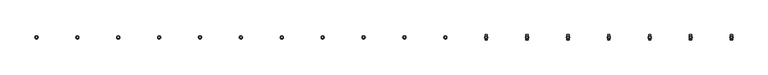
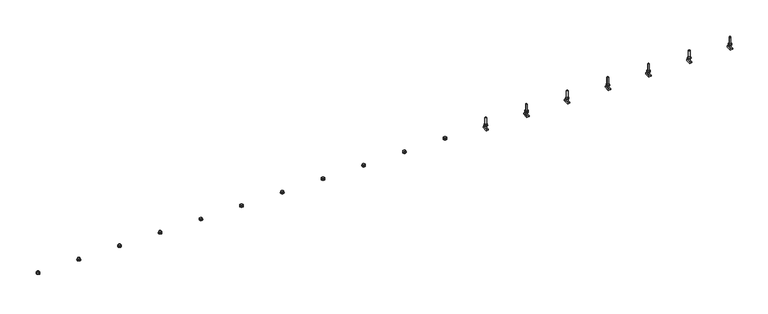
"""IFC4 building model written with IfcOpenShell, lengths in millimetres: fastener geometry, JTA-K JORDAHL® AnchorChannels : JTA-K L=6000 mm."""

from ifc_helpers import new_model, si_unit, point, frame, frame_2d, origin, place, context, project, spatial, polyline, circle_curve, trimmed, segment, composite_curve, outline, extrude, source, transform, mapped, element, save
from ifc_brep_helpers import plane_surface, cylinder_surface, advanced_brep


def fastener_5419c579(model_context):
    return source(origin(), model_context, "Body", "SolidModel", [
        extrude(outline(polyline([(5617.1052632, -10.3923048), (5608.1052632, -5.1961524), (5608.1052632, 5.1961524), (5617.1052632, 10.3923048), (5626.1052632, 5.1961524), (5626.1052632, -5.1961524), (5617.1052632, -10.3923048)]), holes=[composite_curve([segment(trimmed(circle_curve(frame_2d((5617.1052632, 0.0)), 6.0), [point((5611.1052632, 0.0))], [point((5623.1052632, 0.0))], True, "CARTESIAN"), True, "CONTINUOUS"), segment(trimmed(circle_curve(frame_2d((5617.1052632, 0.0)), 6.0), [point((5623.1052632, 0.0))], [point((5611.1052632, 0.0))], True, "CARTESIAN"), True, "CONTINUOUS")], self_intersect=False)]), frame((0.0, 0.0, 17.5), z_axis=(0.0, 0.0, 1.0), x_axis=(1.0, 0.0, 0.0)), (0.0, 0.0, 1.0), 10.8),
        extrude(outline(composite_curve([segment(trimmed(circle_curve(frame_2d((5617.1052632, 0.0)), 12.0), [point((5605.1052632, 0.0))], [point((5629.1052632, 0.0))], False, "CARTESIAN"), True, "CONTINUOUS"), segment(trimmed(circle_curve(frame_2d((5617.1052632, 0.0)), 12.0), [point((5629.1052632, 0.0))], [point((5605.1052632, 0.0))], False, "CARTESIAN"), True, "CONTINUOUS")], self_intersect=False), holes=[composite_curve([segment(trimmed(circle_curve(frame_2d((5617.1052632, 0.0)), 6.5), [point((5610.6052632, 0.0))], [point((5623.6052632, 0.0))], True, "CARTESIAN"), True, "CONTINUOUS"), segment(trimmed(circle_curve(frame_2d((5617.1052632, 0.0)), 6.5), [point((5623.6052632, 0.0))], [point((5610.6052632, 0.0))], True, "CARTESIAN"), True, "CONTINUOUS")], self_intersect=False)]), frame((0.0, 0.0, 15.0), z_axis=(0.0, 0.0, 1.0), x_axis=(1.0, 0.0, 0.0)), (0.0, 0.0, 1.0), 2.5),
        extrude(outline(polyline([(5309.2105263, -10.3923048), (5300.2105263, -5.1961524), (5300.2105263, 5.1961524), (5309.2105263, 10.3923048), (5318.2105263, 5.1961524), (5318.2105263, -5.1961524), (5309.2105263, -10.3923048)]), holes=[composite_curve([segment(trimmed(circle_curve(frame_2d((5309.2105263, 0.0)), 6.0), [point((5303.2105263, 0.0))], [point((5315.2105263, 0.0))], True, "CARTESIAN"), True, "CONTINUOUS"), segment(trimmed(circle_curve(frame_2d((5309.2105263, 0.0)), 6.0), [point((5315.2105263, 0.0))], [point((5303.2105263, 0.0))], True, "CARTESIAN"), True, "CONTINUOUS")], self_intersect=False)]), frame((0.0, 0.0, 17.5), z_axis=(0.0, 0.0, 1.0), x_axis=(1.0, 0.0, 0.0)), (0.0, 0.0, 1.0), 10.8),
        extrude(outline(composite_curve([segment(trimmed(circle_curve(frame_2d((5309.2105263, 0.0)), 12.0), [point((5297.2105263, 0.0))], [point((5321.2105263, 0.0))], False, "CARTESIAN"), True, "CONTINUOUS"), segment(trimmed(circle_curve(frame_2d((5309.2105263, 0.0)), 12.0), [point((5321.2105263, 0.0))], [point((5297.2105263, 0.0))], False, "CARTESIAN"), True, "CONTINUOUS")], self_intersect=False), holes=[composite_curve([segment(trimmed(circle_curve(frame_2d((5309.2105263, 0.0)), 6.5), [point((5302.7105263, 0.0))], [point((5315.7105263, 0.0))], True, "CARTESIAN"), True, "CONTINUOUS"), segment(trimmed(circle_curve(frame_2d((5309.2105263, 0.0)), 6.5), [point((5315.7105263, 0.0))], [point((5302.7105263, 0.0))], True, "CARTESIAN"), True, "CONTINUOUS")], self_intersect=False)]), frame((0.0, 0.0, 15.0), z_axis=(0.0, 0.0, 1.0), x_axis=(1.0, 0.0, 0.0)), (0.0, 0.0, 1.0), 2.5),
        extrude(outline(polyline([(5001.3157895, -10.3923048), (4992.3157895, -5.1961524), (4992.3157895, 5.1961524), (5001.3157895, 10.3923048), (5010.3157895, 5.1961524), (5010.3157895, -5.1961524), (5001.3157895, -10.3923048)]), holes=[composite_curve([segment(trimmed(circle_curve(frame_2d((5001.3157895, 0.0)), 6.0), [point((4995.3157895, 0.0))], [point((5007.3157895, 0.0))], True, "CARTESIAN"), True, "CONTINUOUS"), segment(trimmed(circle_curve(frame_2d((5001.3157895, 0.0)), 6.0), [point((5007.3157895, 0.0))], [point((4995.3157895, 0.0))], True, "CARTESIAN"), True, "CONTINUOUS")], self_intersect=False)]), frame((0.0, 0.0, 17.5), z_axis=(0.0, 0.0, 1.0), x_axis=(1.0, 0.0, 0.0)), (0.0, 0.0, 1.0), 10.8),
        extrude(outline(composite_curve([segment(trimmed(circle_curve(frame_2d((5001.3157895, 0.0)), 12.0), [point((4989.3157895, 0.0))], [point((5013.3157895, 0.0))], False, "CARTESIAN"), True, "CONTINUOUS"), segment(trimmed(circle_curve(frame_2d((5001.3157895, 0.0)), 12.0), [point((5013.3157895, 0.0))], [point((4989.3157895, 0.0))], False, "CARTESIAN"), True, "CONTINUOUS")], self_intersect=False), holes=[composite_curve([segment(trimmed(circle_curve(frame_2d((5001.3157895, 0.0)), 6.5), [point((4994.8157895, 0.0))], [point((5007.8157895, 0.0))], True, "CARTESIAN"), True, "CONTINUOUS"), segment(trimmed(circle_curve(frame_2d((5001.3157895, 0.0)), 6.5), [point((5007.8157895, 0.0))], [point((4994.8157895, 0.0))], True, "CARTESIAN"), True, "CONTINUOUS")], self_intersect=False)]), frame((0.0, 0.0, 15.0), z_axis=(0.0, 0.0, 1.0), x_axis=(1.0, 0.0, 0.0)), (0.0, 0.0, 1.0), 2.5),
        extrude(outline(polyline([(4693.4210526, -10.3923048), (4684.4210526, -5.1961524), (4684.4210526, 5.1961524), (4693.4210526, 10.3923048), (4702.4210526, 5.1961524), (4702.4210526, -5.1961524), (4693.4210526, -10.3923048)]), holes=[composite_curve([segment(trimmed(circle_curve(frame_2d((4693.4210526, 0.0)), 6.0), [point((4687.4210526, 0.0))], [point((4699.4210526, 0.0))], True, "CARTESIAN"), True, "CONTINUOUS"), segment(trimmed(circle_curve(frame_2d((4693.4210526, 0.0)), 6.0), [point((4699.4210526, 0.0))], [point((4687.4210526, 0.0))], True, "CARTESIAN"), True, "CONTINUOUS")], self_intersect=False)]), frame((0.0, 0.0, 17.5), z_axis=(0.0, 0.0, 1.0), x_axis=(1.0, 0.0, 0.0)), (0.0, 0.0, 1.0), 10.8),
        extrude(outline(composite_curve([segment(trimmed(circle_curve(frame_2d((4693.4210526, 0.0)), 12.0), [point((4681.4210526, 0.0))], [point((4705.4210526, 0.0))], False, "CARTESIAN"), True, "CONTINUOUS"), segment(trimmed(circle_curve(frame_2d((4693.4210526, 0.0)), 12.0), [point((4705.4210526, 0.0))], [point((4681.4210526, 0.0))], False, "CARTESIAN"), True, "CONTINUOUS")], self_intersect=False), holes=[composite_curve([segment(trimmed(circle_curve(frame_2d((4693.4210526, 0.0)), 6.5), [point((4686.9210526, 0.0))], [point((4699.9210526, 0.0))], True, "CARTESIAN"), True, "CONTINUOUS"), segment(trimmed(circle_curve(frame_2d((4693.4210526, 0.0)), 6.5), [point((4699.9210526, 0.0))], [point((4686.9210526, 0.0))], True, "CARTESIAN"), True, "CONTINUOUS")], self_intersect=False)]), frame((0.0, 0.0, 15.0), z_axis=(0.0, 0.0, 1.0), x_axis=(1.0, 0.0, 0.0)), (0.0, 0.0, 1.0), 2.5),
        extrude(outline(polyline([(4385.5263158, -10.3923048), (4376.5263158, -5.1961524), (4376.5263158, 5.1961524), (4385.5263158, 10.3923048), (4394.5263158, 5.1961524), (4394.5263158, -5.1961524), (4385.5263158, -10.3923048)]), holes=[composite_curve([segment(trimmed(circle_curve(frame_2d((4385.5263158, 0.0)), 6.0), [point((4379.5263158, 0.0))], [point((4391.5263158, 0.0))], True, "CARTESIAN"), True, "CONTINUOUS"), segment(trimmed(circle_curve(frame_2d((4385.5263158, 0.0)), 6.0), [point((4391.5263158, 0.0))], [point((4379.5263158, 0.0))], True, "CARTESIAN"), True, "CONTINUOUS")], self_intersect=False)]), frame((0.0, 0.0, 17.5), z_axis=(0.0, 0.0, 1.0), x_axis=(1.0, 0.0, 0.0)), (0.0, 0.0, 1.0), 10.8),
        extrude(outline(composite_curve([segment(trimmed(circle_curve(frame_2d((4385.5263158, 0.0)), 12.0), [point((4373.5263158, 0.0))], [point((4397.5263158, 0.0))], False, "CARTESIAN"), True, "CONTINUOUS"), segment(trimmed(circle_curve(frame_2d((4385.5263158, 0.0)), 12.0), [point((4397.5263158, 0.0))], [point((4373.5263158, 0.0))], False, "CARTESIAN"), True, "CONTINUOUS")], self_intersect=False), holes=[composite_curve([segment(trimmed(circle_curve(frame_2d((4385.5263158, 0.0)), 6.5), [point((4379.0263158, 0.0))], [point((4392.0263158, 0.0))], True, "CARTESIAN"), True, "CONTINUOUS"), segment(trimmed(circle_curve(frame_2d((4385.5263158, 0.0)), 6.5), [point((4392.0263158, 0.0))], [point((4379.0263158, 0.0))], True, "CARTESIAN"), True, "CONTINUOUS")], self_intersect=False)]), frame((0.0, 0.0, 15.0), z_axis=(0.0, 0.0, 1.0), x_axis=(1.0, 0.0, 0.0)), (0.0, 0.0, 1.0), 2.5),
        extrude(outline(polyline([(4077.6315789, -10.3923048), (4068.6315789, -5.1961524), (4068.6315789, 5.1961524), (4077.6315789, 10.3923048), (4086.6315789, 5.1961524), (4086.6315789, -5.1961524), (4077.6315789, -10.3923048)]), holes=[composite_curve([segment(trimmed(circle_curve(frame_2d((4077.6315789, 0.0)), 6.0), [point((4071.6315789, 0.0))], [point((4083.6315789, 0.0))], True, "CARTESIAN"), True, "CONTINUOUS"), segment(trimmed(circle_curve(frame_2d((4077.6315789, 0.0)), 6.0), [point((4083.6315789, 0.0))], [point((4071.6315789, 0.0))], True, "CARTESIAN"), True, "CONTINUOUS")], self_intersect=False)]), frame((0.0, 0.0, 17.5), z_axis=(0.0, 0.0, 1.0), x_axis=(1.0, 0.0, 0.0)), (0.0, 0.0, 1.0), 10.8),
        extrude(outline(composite_curve([segment(trimmed(circle_curve(frame_2d((4077.6315789, 0.0)), 12.0), [point((4065.6315789, 0.0))], [point((4089.6315789, 0.0))], False, "CARTESIAN"), True, "CONTINUOUS"), segment(trimmed(circle_curve(frame_2d((4077.6315789, 0.0)), 12.0), [point((4089.6315789, 0.0))], [point((4065.6315789, 0.0))], False, "CARTESIAN"), True, "CONTINUOUS")], self_intersect=False), holes=[composite_curve([segment(trimmed(circle_curve(frame_2d((4077.6315789, 0.0)), 6.5), [point((4071.1315789, 0.0))], [point((4084.1315789, 0.0))], True, "CARTESIAN"), True, "CONTINUOUS"), segment(trimmed(circle_curve(frame_2d((4077.6315789, 0.0)), 6.5), [point((4084.1315789, 0.0))], [point((4071.1315789, 0.0))], True, "CARTESIAN"), True, "CONTINUOUS")], self_intersect=False)]), frame((0.0, 0.0, 15.0), z_axis=(0.0, 0.0, 1.0), x_axis=(1.0, 0.0, 0.0)), (0.0, 0.0, 1.0), 2.5),
        extrude(outline(polyline([(3769.7368421, -10.3923048), (3760.7368421, -5.1961524), (3760.7368421, 5.1961524), (3769.7368421, 10.3923048), (3778.7368421, 5.1961524), (3778.7368421, -5.1961524), (3769.7368421, -10.3923048)]), holes=[composite_curve([segment(trimmed(circle_curve(frame_2d((3769.7368421, 0.0)), 6.0), [point((3763.7368421, 0.0))], [point((3775.7368421, 0.0))], True, "CARTESIAN"), True, "CONTINUOUS"), segment(trimmed(circle_curve(frame_2d((3769.7368421, 0.0)), 6.0), [point((3775.7368421, 0.0))], [point((3763.7368421, 0.0))], True, "CARTESIAN"), True, "CONTINUOUS")], self_intersect=False)]), frame((0.0, 0.0, 17.5), z_axis=(0.0, 0.0, 1.0), x_axis=(1.0, 0.0, 0.0)), (0.0, 0.0, 1.0), 10.8),
        extrude(outline(composite_curve([segment(trimmed(circle_curve(frame_2d((3769.7368421, 0.0)), 12.0), [point((3757.7368421, 0.0))], [point((3781.7368421, 0.0))], False, "CARTESIAN"), True, "CONTINUOUS"), segment(trimmed(circle_curve(frame_2d((3769.7368421, 0.0)), 12.0), [point((3781.7368421, 0.0))], [point((3757.7368421, 0.0))], False, "CARTESIAN"), True, "CONTINUOUS")], self_intersect=False), holes=[composite_curve([segment(trimmed(circle_curve(frame_2d((3769.7368421, 0.0)), 6.5), [point((3763.2368421, 0.0))], [point((3776.2368421, 0.0))], True, "CARTESIAN"), True, "CONTINUOUS"), segment(trimmed(circle_curve(frame_2d((3769.7368421, 0.0)), 6.5), [point((3776.2368421, 0.0))], [point((3763.2368421, 0.0))], True, "CARTESIAN"), True, "CONTINUOUS")], self_intersect=False)]), frame((0.0, 0.0, 15.0), z_axis=(0.0, 0.0, 1.0), x_axis=(1.0, 0.0, 0.0)), (0.0, 0.0, 1.0), 2.5),
        extrude(outline(polyline([(3461.8421053, -10.3923048), (3452.8421053, -5.1961524), (3452.8421053, 5.1961524), (3461.8421053, 10.3923048), (3470.8421053, 5.1961524), (3470.8421053, -5.1961524), (3461.8421053, -10.3923048)]), holes=[composite_curve([segment(trimmed(circle_curve(frame_2d((3461.8421053, 0.0)), 6.0), [point((3455.8421053, 0.0))], [point((3467.8421053, 0.0))], True, "CARTESIAN"), True, "CONTINUOUS"), segment(trimmed(circle_curve(frame_2d((3461.8421053, 0.0)), 6.0), [point((3467.8421053, 0.0))], [point((3455.8421053, 0.0))], True, "CARTESIAN"), True, "CONTINUOUS")], self_intersect=False)]), frame((0.0, 0.0, 17.5), z_axis=(0.0, 0.0, 1.0), x_axis=(1.0, 0.0, 0.0)), (0.0, 0.0, 1.0), 10.8),
        extrude(outline(composite_curve([segment(trimmed(circle_curve(frame_2d((3461.8421053, 0.0)), 12.0), [point((3449.8421053, 0.0))], [point((3473.8421053, 0.0))], False, "CARTESIAN"), True, "CONTINUOUS"), segment(trimmed(circle_curve(frame_2d((3461.8421053, 0.0)), 12.0), [point((3473.8421053, 0.0))], [point((3449.8421053, 0.0))], False, "CARTESIAN"), True, "CONTINUOUS")], self_intersect=False), holes=[composite_curve([segment(trimmed(circle_curve(frame_2d((3461.8421053, 0.0)), 6.5), [point((3455.3421053, 0.0))], [point((3468.3421053, 0.0))], True, "CARTESIAN"), True, "CONTINUOUS"), segment(trimmed(circle_curve(frame_2d((3461.8421053, 0.0)), 6.5), [point((3468.3421053, 0.0))], [point((3455.3421053, 0.0))], True, "CARTESIAN"), True, "CONTINUOUS")], self_intersect=False)]), frame((0.0, 0.0, 15.0), z_axis=(0.0, 0.0, 1.0), x_axis=(1.0, 0.0, 0.0)), (0.0, 0.0, 1.0), 2.5),
        extrude(outline(polyline([(3153.9473684, -10.3923048), (3144.9473684, -5.1961524), (3144.9473684, 5.1961524), (3153.9473684, 10.3923048), (3162.9473684, 5.1961524), (3162.9473684, -5.1961524), (3153.9473684, -10.3923048)]), holes=[composite_curve([segment(trimmed(circle_curve(frame_2d((3153.9473684, 0.0)), 6.0), [point((3147.9473684, 0.0))], [point((3159.9473684, 0.0))], True, "CARTESIAN"), True, "CONTINUOUS"), segment(trimmed(circle_curve(frame_2d((3153.9473684, 0.0)), 6.0), [point((3159.9473684, 0.0))], [point((3147.9473684, 0.0))], True, "CARTESIAN"), True, "CONTINUOUS")], self_intersect=False)]), frame((0.0, 0.0, 17.5), z_axis=(0.0, 0.0, 1.0), x_axis=(1.0, 0.0, 0.0)), (0.0, 0.0, 1.0), 10.8),
        extrude(outline(composite_curve([segment(trimmed(circle_curve(frame_2d((3153.9473684, 0.0)), 12.0), [point((3141.9473684, 0.0))], [point((3165.9473684, 0.0))], False, "CARTESIAN"), True, "CONTINUOUS"), segment(trimmed(circle_curve(frame_2d((3153.9473684, 0.0)), 12.0), [point((3165.9473684, 0.0))], [point((3141.9473684, 0.0))], False, "CARTESIAN"), True, "CONTINUOUS")], self_intersect=False), holes=[composite_curve([segment(trimmed(circle_curve(frame_2d((3153.9473684, 0.0)), 6.5), [point((3147.4473684, 0.0))], [point((3160.4473684, 0.0))], True, "CARTESIAN"), True, "CONTINUOUS"), segment(trimmed(circle_curve(frame_2d((3153.9473684, 0.0)), 6.5), [point((3160.4473684, 0.0))], [point((3147.4473684, 0.0))], True, "CARTESIAN"), True, "CONTINUOUS")], self_intersect=False)]), frame((0.0, 0.0, 15.0), z_axis=(0.0, 0.0, 1.0), x_axis=(1.0, 0.0, 0.0)), (0.0, 0.0, 1.0), 2.5),
        extrude(outline(polyline([(2846.0526316, -10.3923048), (2837.0526316, -5.1961524), (2837.0526316, 5.1961524), (2846.0526316, 10.3923048), (2855.0526316, 5.1961524), (2855.0526316, -5.1961524), (2846.0526316, -10.3923048)]), holes=[composite_curve([segment(trimmed(circle_curve(frame_2d((2846.0526316, 0.0)), 6.0), [point((2840.0526316, 0.0))], [point((2852.0526316, 0.0))], True, "CARTESIAN"), True, "CONTINUOUS"), segment(trimmed(circle_curve(frame_2d((2846.0526316, 0.0)), 6.0), [point((2852.0526316, 0.0))], [point((2840.0526316, 0.0))], True, "CARTESIAN"), True, "CONTINUOUS")], self_intersect=False)]), frame((0.0, 0.0, 17.5), z_axis=(0.0, 0.0, 1.0), x_axis=(1.0, 0.0, 0.0)), (0.0, 0.0, 1.0), 10.8),
        extrude(outline(composite_curve([segment(trimmed(circle_curve(frame_2d((2846.0526316, 0.0)), 12.0), [point((2834.0526316, 0.0))], [point((2858.0526316, 0.0))], False, "CARTESIAN"), True, "CONTINUOUS"), segment(trimmed(circle_curve(frame_2d((2846.0526316, 0.0)), 12.0), [point((2858.0526316, 0.0))], [point((2834.0526316, 0.0))], False, "CARTESIAN"), True, "CONTINUOUS")], self_intersect=False), holes=[composite_curve([segment(trimmed(circle_curve(frame_2d((2846.0526316, 0.0)), 6.5), [point((2839.5526316, 0.0))], [point((2852.5526316, 0.0))], True, "CARTESIAN"), True, "CONTINUOUS"), segment(trimmed(circle_curve(frame_2d((2846.0526316, 0.0)), 6.5), [point((2852.5526316, 0.0))], [point((2839.5526316, 0.0))], True, "CARTESIAN"), True, "CONTINUOUS")], self_intersect=False)]), frame((0.0, 0.0, 15.0), z_axis=(0.0, 0.0, 1.0), x_axis=(1.0, 0.0, 0.0)), (0.0, 0.0, 1.0), 2.5),
        extrude(outline(polyline([(2538.1578947, -10.3923048), (2529.1578947, -5.1961524), (2529.1578947, 5.1961524), (2538.1578947, 10.3923048), (2547.1578947, 5.1961524), (2547.1578947, -5.1961524), (2538.1578947, -10.3923048)]), holes=[composite_curve([segment(trimmed(circle_curve(frame_2d((2538.1578947, 0.0)), 6.0), [point((2532.1578947, 0.0))], [point((2544.1578947, 0.0))], True, "CARTESIAN"), True, "CONTINUOUS"), segment(trimmed(circle_curve(frame_2d((2538.1578947, 0.0)), 6.0), [point((2544.1578947, 0.0))], [point((2532.1578947, 0.0))], True, "CARTESIAN"), True, "CONTINUOUS")], self_intersect=False)]), frame((0.0, 0.0, 17.5), z_axis=(0.0, 0.0, 1.0), x_axis=(1.0, 0.0, 0.0)), (0.0, 0.0, 1.0), 10.8),
        extrude(outline(composite_curve([segment(trimmed(circle_curve(frame_2d((2538.1578947, 0.0)), 12.0), [point((2526.1578947, 0.0))], [point((2550.1578947, 0.0))], False, "CARTESIAN"), True, "CONTINUOUS"), segment(trimmed(circle_curve(frame_2d((2538.1578947, 0.0)), 12.0), [point((2550.1578947, 0.0))], [point((2526.1578947, 0.0))], False, "CARTESIAN"), True, "CONTINUOUS")], self_intersect=False), holes=[composite_curve([segment(trimmed(circle_curve(frame_2d((2538.1578947, 0.0)), 6.5), [point((2531.6578947, 0.0))], [point((2544.6578947, 0.0))], True, "CARTESIAN"), True, "CONTINUOUS"), segment(trimmed(circle_curve(frame_2d((2538.1578947, 0.0)), 6.5), [point((2544.6578947, 0.0))], [point((2531.6578947, 0.0))], True, "CARTESIAN"), True, "CONTINUOUS")], self_intersect=False)]), frame((0.0, 0.0, 15.0), z_axis=(0.0, 0.0, 1.0), x_axis=(1.0, 0.0, 0.0)), (0.0, 0.0, 1.0), 2.5),
        extrude(outline(polyline([(2230.2631579, -10.3923048), (2221.2631579, -5.1961524), (2221.2631579, 5.1961524), (2230.2631579, 10.3923048), (2239.2631579, 5.1961524), (2239.2631579, -5.1961524), (2230.2631579, -10.3923048)]), holes=[composite_curve([segment(trimmed(circle_curve(frame_2d((2230.2631579, 0.0)), 6.0), [point((2224.2631579, 0.0))], [point((2236.2631579, 0.0))], True, "CARTESIAN"), True, "CONTINUOUS"), segment(trimmed(circle_curve(frame_2d((2230.2631579, 0.0)), 6.0), [point((2236.2631579, 0.0))], [point((2224.2631579, 0.0))], True, "CARTESIAN"), True, "CONTINUOUS")], self_intersect=False)]), frame((0.0, 0.0, 17.5), z_axis=(0.0, 0.0, 1.0), x_axis=(1.0, 0.0, 0.0)), (0.0, 0.0, 1.0), 10.8),
        extrude(outline(composite_curve([segment(trimmed(circle_curve(frame_2d((2230.2631579, 0.0)), 12.0), [point((2218.2631579, 0.0))], [point((2242.2631579, 0.0))], False, "CARTESIAN"), True, "CONTINUOUS"), segment(trimmed(circle_curve(frame_2d((2230.2631579, 0.0)), 12.0), [point((2242.2631579, 0.0))], [point((2218.2631579, 0.0))], False, "CARTESIAN"), True, "CONTINUOUS")], self_intersect=False), holes=[composite_curve([segment(trimmed(circle_curve(frame_2d((2230.2631579, 0.0)), 6.5), [point((2223.7631579, 0.0))], [point((2236.7631579, 0.0))], True, "CARTESIAN"), True, "CONTINUOUS"), segment(trimmed(circle_curve(frame_2d((2230.2631579, 0.0)), 6.5), [point((2236.7631579, 0.0))], [point((2223.7631579, 0.0))], True, "CARTESIAN"), True, "CONTINUOUS")], self_intersect=False)]), frame((0.0, 0.0, 15.0), z_axis=(0.0, 0.0, 1.0), x_axis=(1.0, 0.0, 0.0)), (0.0, 0.0, 1.0), 2.5),
        extrude(outline(polyline([(1922.3684211, -10.3923048), (1913.3684211, -5.1961524), (1913.3684211, 5.1961524), (1922.3684211, 10.3923048), (1931.3684211, 5.1961524), (1931.3684211, -5.1961524), (1922.3684211, -10.3923048)]), holes=[composite_curve([segment(trimmed(circle_curve(frame_2d((1922.3684211, 0.0)), 6.0), [point((1916.3684211, 0.0))], [point((1928.3684211, 0.0))], True, "CARTESIAN"), True, "CONTINUOUS"), segment(trimmed(circle_curve(frame_2d((1922.3684211, 0.0)), 6.0), [point((1928.3684211, 0.0))], [point((1916.3684211, 0.0))], True, "CARTESIAN"), True, "CONTINUOUS")], self_intersect=False)]), frame((0.0, 0.0, 17.5), z_axis=(0.0, 0.0, 1.0), x_axis=(1.0, 0.0, 0.0)), (0.0, 0.0, 1.0), 10.8),
        extrude(outline(composite_curve([segment(trimmed(circle_curve(frame_2d((1922.3684211, 0.0)), 12.0), [point((1910.3684211, 0.0))], [point((1934.3684211, 0.0))], False, "CARTESIAN"), True, "CONTINUOUS"), segment(trimmed(circle_curve(frame_2d((1922.3684211, 0.0)), 12.0), [point((1934.3684211, 0.0))], [point((1910.3684211, 0.0))], False, "CARTESIAN"), True, "CONTINUOUS")], self_intersect=False), holes=[composite_curve([segment(trimmed(circle_curve(frame_2d((1922.3684211, 0.0)), 6.5), [point((1915.8684211, 0.0))], [point((1928.8684211, 0.0))], True, "CARTESIAN"), True, "CONTINUOUS"), segment(trimmed(circle_curve(frame_2d((1922.3684211, 0.0)), 6.5), [point((1928.8684211, 0.0))], [point((1915.8684211, 0.0))], True, "CARTESIAN"), True, "CONTINUOUS")], self_intersect=False)]), frame((0.0, 0.0, 15.0), z_axis=(0.0, 0.0, 1.0), x_axis=(1.0, 0.0, 0.0)), (0.0, 0.0, 1.0), 2.5),
        extrude(outline(polyline([(1614.4736842, -10.3923048), (1605.4736842, -5.1961524), (1605.4736842, 5.1961524), (1614.4736842, 10.3923048), (1623.4736842, 5.1961524), (1623.4736842, -5.1961524), (1614.4736842, -10.3923048)]), holes=[composite_curve([segment(trimmed(circle_curve(frame_2d((1614.4736842, 0.0)), 6.0), [point((1608.4736842, 0.0))], [point((1620.4736842, 0.0))], True, "CARTESIAN"), True, "CONTINUOUS"), segment(trimmed(circle_curve(frame_2d((1614.4736842, 0.0)), 6.0), [point((1620.4736842, 0.0))], [point((1608.4736842, 0.0))], True, "CARTESIAN"), True, "CONTINUOUS")], self_intersect=False)]), frame((0.0, 0.0, 17.5), z_axis=(0.0, 0.0, 1.0), x_axis=(1.0, 0.0, 0.0)), (0.0, 0.0, 1.0), 10.8),
        extrude(outline(composite_curve([segment(trimmed(circle_curve(frame_2d((1614.4736842, 0.0)), 12.0), [point((1602.4736842, 0.0))], [point((1626.4736842, 0.0))], False, "CARTESIAN"), True, "CONTINUOUS"), segment(trimmed(circle_curve(frame_2d((1614.4736842, 0.0)), 12.0), [point((1626.4736842, 0.0))], [point((1602.4736842, 0.0))], False, "CARTESIAN"), True, "CONTINUOUS")], self_intersect=False), holes=[composite_curve([segment(trimmed(circle_curve(frame_2d((1614.4736842, 0.0)), 6.5), [point((1607.9736842, 0.0))], [point((1620.9736842, 0.0))], True, "CARTESIAN"), True, "CONTINUOUS"), segment(trimmed(circle_curve(frame_2d((1614.4736842, 0.0)), 6.5), [point((1620.9736842, 0.0))], [point((1607.9736842, 0.0))], True, "CARTESIAN"), True, "CONTINUOUS")], self_intersect=False)]), frame((0.0, 0.0, 15.0), z_axis=(0.0, 0.0, 1.0), x_axis=(1.0, 0.0, 0.0)), (0.0, 0.0, 1.0), 2.5),
        extrude(outline(polyline([(1306.5789474, -10.3923048), (1297.5789474, -5.1961524), (1297.5789474, 5.1961524), (1306.5789474, 10.3923048), (1315.5789474, 5.1961524), (1315.5789474, -5.1961524), (1306.5789474, -10.3923048)]), holes=[composite_curve([segment(trimmed(circle_curve(frame_2d((1306.5789474, 0.0)), 6.0), [point((1300.5789474, 0.0))], [point((1312.5789474, 0.0))], True, "CARTESIAN"), True, "CONTINUOUS"), segment(trimmed(circle_curve(frame_2d((1306.5789474, 0.0)), 6.0), [point((1312.5789474, 0.0))], [point((1300.5789474, 0.0))], True, "CARTESIAN"), True, "CONTINUOUS")], self_intersect=False)]), frame((0.0, 0.0, 17.5), z_axis=(0.0, 0.0, 1.0), x_axis=(1.0, 0.0, 0.0)), (0.0, 0.0, 1.0), 10.8),
        extrude(outline(composite_curve([segment(trimmed(circle_curve(frame_2d((1306.5789474, 0.0)), 12.0), [point((1294.5789474, 0.0))], [point((1318.5789474, 0.0))], False, "CARTESIAN"), True, "CONTINUOUS"), segment(trimmed(circle_curve(frame_2d((1306.5789474, 0.0)), 12.0), [point((1318.5789474, 0.0))], [point((1294.5789474, 0.0))], False, "CARTESIAN"), True, "CONTINUOUS")], self_intersect=False), holes=[composite_curve([segment(trimmed(circle_curve(frame_2d((1306.5789474, 0.0)), 6.5), [point((1300.0789474, 0.0))], [point((1313.0789474, 0.0))], True, "CARTESIAN"), True, "CONTINUOUS"), segment(trimmed(circle_curve(frame_2d((1306.5789474, 0.0)), 6.5), [point((1313.0789474, 0.0))], [point((1300.0789474, 0.0))], True, "CARTESIAN"), True, "CONTINUOUS")], self_intersect=False)]), frame((0.0, 0.0, 15.0), z_axis=(0.0, 0.0, 1.0), x_axis=(1.0, 0.0, 0.0)), (0.0, 0.0, 1.0), 2.5),
        extrude(outline(polyline([(998.6842105, -10.3923048), (989.6842105, -5.1961524), (989.6842105, 5.1961524), (998.6842105, 10.3923048), (1007.6842105, 5.1961524), (1007.6842105, -5.1961524), (998.6842105, -10.3923048)]), holes=[composite_curve([segment(trimmed(circle_curve(frame_2d((998.6842105, 0.0)), 6.0), [point((992.6842105, 0.0))], [point((1004.6842105, 0.0))], True, "CARTESIAN"), True, "CONTINUOUS"), segment(trimmed(circle_curve(frame_2d((998.6842105, 0.0)), 6.0), [point((1004.6842105, 0.0))], [point((992.6842105, 0.0))], True, "CARTESIAN"), True, "CONTINUOUS")], self_intersect=False)]), frame((0.0, 0.0, 17.5), z_axis=(0.0, 0.0, 1.0), x_axis=(1.0, 0.0, 0.0)), (0.0, 0.0, 1.0), 10.8),
        extrude(outline(composite_curve([segment(trimmed(circle_curve(frame_2d((998.6842105, 0.0)), 12.0), [point((986.6842105, 0.0))], [point((1010.6842105, 0.0))], False, "CARTESIAN"), True, "CONTINUOUS"), segment(trimmed(circle_curve(frame_2d((998.6842105, 0.0)), 12.0), [point((1010.6842105, 0.0))], [point((986.6842105, 0.0))], False, "CARTESIAN"), True, "CONTINUOUS")], self_intersect=False), holes=[composite_curve([segment(trimmed(circle_curve(frame_2d((998.6842105, 0.0)), 6.5), [point((992.1842105, 0.0))], [point((1005.1842105, 0.0))], True, "CARTESIAN"), True, "CONTINUOUS"), segment(trimmed(circle_curve(frame_2d((998.6842105, 0.0)), 6.5), [point((1005.1842105, 0.0))], [point((992.1842105, 0.0))], True, "CARTESIAN"), True, "CONTINUOUS")], self_intersect=False)]), frame((0.0, 0.0, 15.0), z_axis=(0.0, 0.0, 1.0), x_axis=(1.0, 0.0, 0.0)), (0.0, 0.0, 1.0), 2.5),
        extrude(outline(polyline([(690.7894737, -10.3923048), (681.7894737, -5.1961524), (681.7894737, 5.1961524), (690.7894737, 10.3923048), (699.7894737, 5.1961524), (699.7894737, -5.1961524), (690.7894737, -10.3923048)]), holes=[composite_curve([segment(trimmed(circle_curve(frame_2d((690.7894737, 0.0)), 6.0), [point((684.7894737, 0.0))], [point((696.7894737, 0.0))], True, "CARTESIAN"), True, "CONTINUOUS"), segment(trimmed(circle_curve(frame_2d((690.7894737, 0.0)), 6.0), [point((696.7894737, 0.0))], [point((684.7894737, 0.0))], True, "CARTESIAN"), True, "CONTINUOUS")], self_intersect=False)]), frame((0.0, 0.0, 17.5), z_axis=(0.0, 0.0, 1.0), x_axis=(1.0, 0.0, 0.0)), (0.0, 0.0, 1.0), 10.8),
        extrude(outline(composite_curve([segment(trimmed(circle_curve(frame_2d((690.7894737, 0.0)), 12.0), [point((678.7894737, 0.0))], [point((702.7894737, 0.0))], False, "CARTESIAN"), True, "CONTINUOUS"), segment(trimmed(circle_curve(frame_2d((690.7894737, 0.0)), 12.0), [point((702.7894737, 0.0))], [point((678.7894737, 0.0))], False, "CARTESIAN"), True, "CONTINUOUS")], self_intersect=False), holes=[composite_curve([segment(trimmed(circle_curve(frame_2d((690.7894737, 0.0)), 6.5), [point((684.2894737, 0.0))], [point((697.2894737, 0.0))], True, "CARTESIAN"), True, "CONTINUOUS"), segment(trimmed(circle_curve(frame_2d((690.7894737, 0.0)), 6.5), [point((697.2894737, 0.0))], [point((684.2894737, 0.0))], True, "CARTESIAN"), True, "CONTINUOUS")], self_intersect=False)]), frame((0.0, 0.0, 15.0), z_axis=(0.0, 0.0, 1.0), x_axis=(1.0, 0.0, 0.0)), (0.0, 0.0, 1.0), 2.5),
        extrude(outline(polyline([(382.8947368, -10.3923048), (373.8947368, -5.1961524), (373.8947368, 5.1961524), (382.8947368, 10.3923048), (391.8947368, 5.1961524), (391.8947368, -5.1961524), (382.8947368, -10.3923048)]), holes=[composite_curve([segment(trimmed(circle_curve(frame_2d((382.8947368, 0.0)), 6.0), [point((376.8947368, 0.0))], [point((388.8947368, 0.0))], True, "CARTESIAN"), True, "CONTINUOUS"), segment(trimmed(circle_curve(frame_2d((382.8947368, 0.0)), 6.0), [point((388.8947368, 0.0))], [point((376.8947368, 0.0))], True, "CARTESIAN"), True, "CONTINUOUS")], self_intersect=False)]), frame((0.0, 0.0, 17.5), z_axis=(0.0, 0.0, 1.0), x_axis=(1.0, 0.0, 0.0)), (0.0, 0.0, 1.0), 10.8),
        extrude(outline(composite_curve([segment(trimmed(circle_curve(frame_2d((382.8947368, 0.0)), 12.0), [point((370.8947368, 0.0))], [point((394.8947368, 0.0))], False, "CARTESIAN"), True, "CONTINUOUS"), segment(trimmed(circle_curve(frame_2d((382.8947368, 0.0)), 12.0), [point((394.8947368, 0.0))], [point((370.8947368, 0.0))], False, "CARTESIAN"), True, "CONTINUOUS")], self_intersect=False), holes=[composite_curve([segment(trimmed(circle_curve(frame_2d((382.8947368, 0.0)), 6.5), [point((376.3947368, 0.0))], [point((389.3947368, 0.0))], True, "CARTESIAN"), True, "CONTINUOUS"), segment(trimmed(circle_curve(frame_2d((382.8947368, 0.0)), 6.5), [point((389.3947368, 0.0))], [point((376.3947368, 0.0))], True, "CARTESIAN"), True, "CONTINUOUS")], self_intersect=False)]), frame((0.0, 0.0, 15.0), z_axis=(0.0, 0.0, 1.0), x_axis=(1.0, 0.0, 0.0)), (0.0, 0.0, 1.0), 2.5),
        advanced_brep(
        [(5625.6052632, -20.7, -3.0), (5625.6052632, -20.7, -13.0), (5625.6052632, 20.7, -13.0), (5625.6052632, 20.7, -3.0), (5608.6052632, -20.7, -3.0), (5608.6052632, 20.7, -3.0), (5608.6052632, 20.7, -13.0), (5608.6052632, -20.7, -13.0), (5623.1052632, 0.0, -3.0), (5611.1052632, 0.0, -3.0), (5611.1052632, 0.0, 77.0), (5623.1052632, 0.0, 77.0)],
        [
            (0, 1),
            (1, 2),
            (2, 3),
            (3, 0),
            (4, 5),
            (5, 6),
            (6, 7),
            (7, 4),
            (3, 5),
            (4, 0),
            (8, 9, circle_curve(frame((5617.1052632, 0.0, -3.0), z_axis=(0.0, 0.0, -1.0), x_axis=(1.0, 0.0, 0.0)), 6.0)),
            (9, 8, circle_curve(frame((5617.1052632, 0.0, -3.0), z_axis=(0.0, 0.0, -1.0), x_axis=(1.0, 0.0, 0.0)), 6.0)),
            (2, 6),
            (1, 7),
            (10, 11, circle_curve(frame((5617.1052632, 0.0, 77.0), z_axis=(0.0, 0.0, 1.0), x_axis=(1.0, 0.0, 0.0)), 6.0)),
            (11, 10, circle_curve(frame((5617.1052632, 0.0, 77.0), z_axis=(0.0, 0.0, 1.0), x_axis=(1.0, 0.0, 0.0)), 6.0)),
            (11, 8),
            (9, 10),
        ],
        [
            plane_surface(frame((5625.6052632, 20.7, -3.0), z_axis=(1.0, 0.0, 0.0), x_axis=(0.0, 1.0, 0.0))),
            plane_surface(frame((5608.6052632, 20.7, -3.0), z_axis=(-1.0, 0.0, 0.0), x_axis=(0.0, -1.0, 0.0))),
            plane_surface(frame((5625.6052632, -20.7, -3.0), z_axis=(0.0, 0.0, 1.0), x_axis=(-1.0, 0.0, 0.0))),
            plane_surface(frame((5625.6052632, 20.7, -3.0), z_axis=(0.0, 1.0, 0.0), x_axis=(-1.0, 0.0, 0.0))),
            plane_surface(frame((5625.6052632, 20.7, -13.0), z_axis=(0.0, 0.0, -1.0), x_axis=(-1.0, 0.0, 0.0))),
            plane_surface(frame((5625.6052632, -20.7, -13.0), z_axis=(0.0, -1.0, 0.0), x_axis=(-1.0, 0.0, 0.0))),
            plane_surface(frame((5623.1052632, 0.0, 77.0), z_axis=(0.0, 0.0, 1.0), x_axis=(0.0, -1.0, 0.0))),
            cylinder_surface(frame((5617.1052632, 0.0, -3.0), z_axis=(0.0, 0.0, 1.0), x_axis=(1.0, 0.0, 0.0)), 6.0),
        ],
        [
            (0, [[1, 2, 3, 4]]),
            (1, [[5, 6, 7, 8]]),
            (2, [[9, -5, 10, -4], [11, 12]]),
            (3, [[13, -6, -9, -3]]),
            (4, [[14, -7, -13, -2]]),
            (5, [[-10, -8, -14, -1]]),
            (6, [[15, 16]]),
            (7, [[17, -12, 18, -16]]),
            (7, [[-18, -11, -17, -15]]),
        ],
    ),
        advanced_brep(
        [(5317.7105263, -20.7, -3.0), (5317.7105263, -20.7, -13.0), (5317.7105263, 20.7, -13.0), (5317.7105263, 20.7, -3.0), (5300.7105263, -20.7, -3.0), (5300.7105263, 20.7, -3.0), (5300.7105263, 20.7, -13.0), (5300.7105263, -20.7, -13.0), (5315.2105263, 0.0, -3.0), (5303.2105263, 0.0, -3.0), (5303.2105263, 0.0, 77.0), (5315.2105263, 0.0, 77.0)],
        [
            (0, 1),
            (1, 2),
            (2, 3),
            (3, 0),
            (4, 5),
            (5, 6),
            (6, 7),
            (7, 4),
            (3, 5),
            (4, 0),
            (8, 9, circle_curve(frame((5309.2105263, 0.0, -3.0), z_axis=(0.0, 0.0, -1.0), x_axis=(1.0, 0.0, 0.0)), 6.0)),
            (9, 8, circle_curve(frame((5309.2105263, 0.0, -3.0), z_axis=(0.0, 0.0, -1.0), x_axis=(1.0, 0.0, 0.0)), 6.0)),
            (2, 6),
            (1, 7),
            (10, 11, circle_curve(frame((5309.2105263, 0.0, 77.0), z_axis=(0.0, 0.0, 1.0), x_axis=(1.0, 0.0, 0.0)), 6.0)),
            (11, 10, circle_curve(frame((5309.2105263, 0.0, 77.0), z_axis=(0.0, 0.0, 1.0), x_axis=(1.0, 0.0, 0.0)), 6.0)),
            (11, 8),
            (9, 10),
        ],
        [
            plane_surface(frame((5317.7105263, 20.7, -3.0), z_axis=(1.0, 0.0, 0.0), x_axis=(0.0, 1.0, 0.0))),
            plane_surface(frame((5300.7105263, 20.7, -3.0), z_axis=(-1.0, 0.0, 0.0), x_axis=(0.0, -1.0, 0.0))),
            plane_surface(frame((5317.7105263, -20.7, -3.0), z_axis=(0.0, 0.0, 1.0), x_axis=(-1.0, 0.0, 0.0))),
            plane_surface(frame((5317.7105263, 20.7, -3.0), z_axis=(0.0, 1.0, 0.0), x_axis=(-1.0, 0.0, 0.0))),
            plane_surface(frame((5317.7105263, 20.7, -13.0), z_axis=(0.0, 0.0, -1.0), x_axis=(-1.0, 0.0, 0.0))),
            plane_surface(frame((5317.7105263, -20.7, -13.0), z_axis=(0.0, -1.0, 0.0), x_axis=(-1.0, 0.0, 0.0))),
            plane_surface(frame((5315.2105263, 0.0, 77.0), z_axis=(0.0, 0.0, 1.0), x_axis=(0.0, -1.0, 0.0))),
            cylinder_surface(frame((5309.2105263, 0.0, -3.0), z_axis=(0.0, 0.0, 1.0), x_axis=(1.0, 0.0, 0.0)), 6.0),
        ],
        [
            (0, [[1, 2, 3, 4]]),
            (1, [[5, 6, 7, 8]]),
            (2, [[9, -5, 10, -4], [11, 12]]),
            (3, [[13, -6, -9, -3]]),
            (4, [[14, -7, -13, -2]]),
            (5, [[-10, -8, -14, -1]]),
            (6, [[15, 16]]),
            (7, [[17, -12, 18, -16]]),
            (7, [[-18, -11, -17, -15]]),
        ],
    ),
        advanced_brep(
        [(5009.8157895, -20.7, -3.0), (5009.8157895, -20.7, -13.0), (5009.8157895, 20.7, -13.0), (5009.8157895, 20.7, -3.0), (4992.8157895, -20.7, -3.0), (4992.8157895, 20.7, -3.0), (4992.8157895, 20.7, -13.0), (4992.8157895, -20.7, -13.0), (5007.3157895, 0.0, -3.0), (4995.3157895, 0.0, -3.0), (4995.3157895, 0.0, 77.0), (5007.3157895, 0.0, 77.0)],
        [
            (0, 1),
            (1, 2),
            (2, 3),
            (3, 0),
            (4, 5),
            (5, 6),
            (6, 7),
            (7, 4),
            (3, 5),
            (4, 0),
            (8, 9, circle_curve(frame((5001.3157895, 0.0, -3.0), z_axis=(0.0, 0.0, -1.0), x_axis=(1.0, 0.0, 0.0)), 6.0)),
            (9, 8, circle_curve(frame((5001.3157895, 0.0, -3.0), z_axis=(0.0, 0.0, -1.0), x_axis=(1.0, 0.0, 0.0)), 6.0)),
            (2, 6),
            (1, 7),
            (10, 11, circle_curve(frame((5001.3157895, 0.0, 77.0), z_axis=(0.0, 0.0, 1.0), x_axis=(1.0, 0.0, 0.0)), 6.0)),
            (11, 10, circle_curve(frame((5001.3157895, 0.0, 77.0), z_axis=(0.0, 0.0, 1.0), x_axis=(1.0, 0.0, 0.0)), 6.0)),
            (11, 8),
            (9, 10),
        ],
        [
            plane_surface(frame((5009.8157895, 20.7, -3.0), z_axis=(1.0, 0.0, 0.0), x_axis=(0.0, 1.0, 0.0))),
            plane_surface(frame((4992.8157895, 20.7, -3.0), z_axis=(-1.0, 0.0, 0.0), x_axis=(0.0, -1.0, 0.0))),
            plane_surface(frame((5009.8157895, -20.7, -3.0), z_axis=(0.0, 0.0, 1.0), x_axis=(-1.0, 0.0, 0.0))),
            plane_surface(frame((5009.8157895, 20.7, -3.0), z_axis=(0.0, 1.0, 0.0), x_axis=(-1.0, 0.0, 0.0))),
            plane_surface(frame((5009.8157895, 20.7, -13.0), z_axis=(0.0, 0.0, -1.0), x_axis=(-1.0, 0.0, 0.0))),
            plane_surface(frame((5009.8157895, -20.7, -13.0), z_axis=(0.0, -1.0, 0.0), x_axis=(-1.0, 0.0, 0.0))),
            plane_surface(frame((5007.3157895, 0.0, 77.0), z_axis=(0.0, 0.0, 1.0), x_axis=(0.0, -1.0, 0.0))),
            cylinder_surface(frame((5001.3157895, 0.0, -3.0), z_axis=(0.0, 0.0, 1.0), x_axis=(1.0, 0.0, 0.0)), 6.0),
        ],
        [
            (0, [[1, 2, 3, 4]]),
            (1, [[5, 6, 7, 8]]),
            (2, [[9, -5, 10, -4], [11, 12]]),
            (3, [[13, -6, -9, -3]]),
            (4, [[14, -7, -13, -2]]),
            (5, [[-10, -8, -14, -1]]),
            (6, [[15, 16]]),
            (7, [[17, -12, 18, -16]]),
            (7, [[-18, -11, -17, -15]]),
        ],
    ),
        advanced_brep(
        [(4701.9210526, -20.7, -3.0), (4701.9210526, -20.7, -13.0), (4701.9210526, 20.7, -13.0), (4701.9210526, 20.7, -3.0), (4684.9210526, -20.7, -3.0), (4684.9210526, 20.7, -3.0), (4684.9210526, 20.7, -13.0), (4684.9210526, -20.7, -13.0), (4699.4210526, 0.0, -3.0), (4687.4210526, 0.0, -3.0), (4687.4210526, 0.0, 77.0), (4699.4210526, 0.0, 77.0)],
        [
            (0, 1),
            (1, 2),
            (2, 3),
            (3, 0),
            (4, 5),
            (5, 6),
            (6, 7),
            (7, 4),
            (3, 5),
            (4, 0),
            (8, 9, circle_curve(frame((4693.4210526, 0.0, -3.0), z_axis=(0.0, 0.0, -1.0), x_axis=(1.0, 0.0, 0.0)), 6.0)),
            (9, 8, circle_curve(frame((4693.4210526, 0.0, -3.0), z_axis=(0.0, 0.0, -1.0), x_axis=(1.0, 0.0, 0.0)), 6.0)),
            (2, 6),
            (1, 7),
            (10, 11, circle_curve(frame((4693.4210526, 0.0, 77.0), z_axis=(0.0, 0.0, 1.0), x_axis=(1.0, 0.0, 0.0)), 6.0)),
            (11, 10, circle_curve(frame((4693.4210526, 0.0, 77.0), z_axis=(0.0, 0.0, 1.0), x_axis=(1.0, 0.0, 0.0)), 6.0)),
            (11, 8),
            (9, 10),
        ],
        [
            plane_surface(frame((4701.9210526, 20.7, -3.0), z_axis=(1.0, 0.0, 0.0), x_axis=(0.0, 1.0, 0.0))),
            plane_surface(frame((4684.9210526, 20.7, -3.0), z_axis=(-1.0, 0.0, 0.0), x_axis=(0.0, -1.0, 0.0))),
            plane_surface(frame((4701.9210526, -20.7, -3.0), z_axis=(0.0, 0.0, 1.0), x_axis=(-1.0, 0.0, 0.0))),
            plane_surface(frame((4701.9210526, 20.7, -3.0), z_axis=(0.0, 1.0, 0.0), x_axis=(-1.0, 0.0, 0.0))),
            plane_surface(frame((4701.9210526, 20.7, -13.0), z_axis=(0.0, 0.0, -1.0), x_axis=(-1.0, 0.0, 0.0))),
            plane_surface(frame((4701.9210526, -20.7, -13.0), z_axis=(0.0, -1.0, 0.0), x_axis=(-1.0, 0.0, 0.0))),
            plane_surface(frame((4699.4210526, 0.0, 77.0), z_axis=(0.0, 0.0, 1.0), x_axis=(0.0, -1.0, 0.0))),
            cylinder_surface(frame((4693.4210526, 0.0, -3.0), z_axis=(0.0, 0.0, 1.0), x_axis=(1.0, 0.0, 0.0)), 6.0),
        ],
        [
            (0, [[1, 2, 3, 4]]),
            (1, [[5, 6, 7, 8]]),
            (2, [[9, -5, 10, -4], [11, 12]]),
            (3, [[13, -6, -9, -3]]),
            (4, [[14, -7, -13, -2]]),
            (5, [[-10, -8, -14, -1]]),
            (6, [[15, 16]]),
            (7, [[17, -12, 18, -16]]),
            (7, [[-18, -11, -17, -15]]),
        ],
    ),
        advanced_brep(
        [(4394.0263158, -20.7, -3.0), (4394.0263158, -20.7, -13.0), (4394.0263158, 20.7, -13.0), (4394.0263158, 20.7, -3.0), (4377.0263158, -20.7, -3.0), (4377.0263158, 20.7, -3.0), (4377.0263158, 20.7, -13.0), (4377.0263158, -20.7, -13.0), (4391.5263158, 0.0, -3.0), (4379.5263158, 0.0, -3.0), (4379.5263158, 0.0, 77.0), (4391.5263158, 0.0, 77.0)],
        [
            (0, 1),
            (1, 2),
            (2, 3),
            (3, 0),
            (4, 5),
            (5, 6),
            (6, 7),
            (7, 4),
            (3, 5),
            (4, 0),
            (8, 9, circle_curve(frame((4385.5263158, 0.0, -3.0), z_axis=(0.0, 0.0, -1.0), x_axis=(1.0, 0.0, 0.0)), 6.0)),
            (9, 8, circle_curve(frame((4385.5263158, 0.0, -3.0), z_axis=(0.0, 0.0, -1.0), x_axis=(1.0, 0.0, 0.0)), 6.0)),
            (2, 6),
            (1, 7),
            (10, 11, circle_curve(frame((4385.5263158, 0.0, 77.0), z_axis=(0.0, 0.0, 1.0), x_axis=(1.0, 0.0, 0.0)), 6.0)),
            (11, 10, circle_curve(frame((4385.5263158, 0.0, 77.0), z_axis=(0.0, 0.0, 1.0), x_axis=(1.0, 0.0, 0.0)), 6.0)),
            (11, 8),
            (9, 10),
        ],
        [
            plane_surface(frame((4394.0263158, 20.7, -3.0), z_axis=(1.0, 0.0, 0.0), x_axis=(0.0, 1.0, 0.0))),
            plane_surface(frame((4377.0263158, 20.7, -3.0), z_axis=(-1.0, 0.0, 0.0), x_axis=(0.0, -1.0, 0.0))),
            plane_surface(frame((4394.0263158, -20.7, -3.0), z_axis=(0.0, 0.0, 1.0), x_axis=(-1.0, 0.0, 0.0))),
            plane_surface(frame((4394.0263158, 20.7, -3.0), z_axis=(0.0, 1.0, 0.0), x_axis=(-1.0, 0.0, 0.0))),
            plane_surface(frame((4394.0263158, 20.7, -13.0), z_axis=(0.0, 0.0, -1.0), x_axis=(-1.0, 0.0, 0.0))),
            plane_surface(frame((4394.0263158, -20.7, -13.0), z_axis=(0.0, -1.0, 0.0), x_axis=(-1.0, 0.0, 0.0))),
            plane_surface(frame((4391.5263158, 0.0, 77.0), z_axis=(0.0, 0.0, 1.0), x_axis=(0.0, -1.0, 0.0))),
            cylinder_surface(frame((4385.5263158, 0.0, -3.0), z_axis=(0.0, 0.0, 1.0), x_axis=(1.0, 0.0, 0.0)), 6.0),
        ],
        [
            (0, [[1, 2, 3, 4]]),
            (1, [[5, 6, 7, 8]]),
            (2, [[9, -5, 10, -4], [11, 12]]),
            (3, [[13, -6, -9, -3]]),
            (4, [[14, -7, -13, -2]]),
            (5, [[-10, -8, -14, -1]]),
            (6, [[15, 16]]),
            (7, [[17, -12, 18, -16]]),
            (7, [[-18, -11, -17, -15]]),
        ],
    ),
        advanced_brep(
        [(4086.1315789, -20.7, -3.0), (4086.1315789, -20.7, -13.0), (4086.1315789, 20.7, -13.0), (4086.1315789, 20.7, -3.0), (4069.1315789, -20.7, -3.0), (4069.1315789, 20.7, -3.0), (4069.1315789, 20.7, -13.0), (4069.1315789, -20.7, -13.0), (4083.6315789, 0.0, -3.0), (4071.6315789, 0.0, -3.0), (4071.6315789, 0.0, 77.0), (4083.6315789, 0.0, 77.0)],
        [
            (0, 1),
            (1, 2),
            (2, 3),
            (3, 0),
            (4, 5),
            (5, 6),
            (6, 7),
            (7, 4),
            (3, 5),
            (4, 0),
            (8, 9, circle_curve(frame((4077.6315789, 0.0, -3.0), z_axis=(0.0, 0.0, -1.0), x_axis=(1.0, 0.0, 0.0)), 6.0)),
            (9, 8, circle_curve(frame((4077.6315789, 0.0, -3.0), z_axis=(0.0, 0.0, -1.0), x_axis=(1.0, 0.0, 0.0)), 6.0)),
            (2, 6),
            (1, 7),
            (10, 11, circle_curve(frame((4077.6315789, 0.0, 77.0), z_axis=(0.0, 0.0, 1.0), x_axis=(1.0, 0.0, 0.0)), 6.0)),
            (11, 10, circle_curve(frame((4077.6315789, 0.0, 77.0), z_axis=(0.0, 0.0, 1.0), x_axis=(1.0, 0.0, 0.0)), 6.0)),
            (11, 8),
            (9, 10),
        ],
        [
            plane_surface(frame((4086.1315789, 20.7, -3.0), z_axis=(1.0, 0.0, 0.0), x_axis=(0.0, 1.0, 0.0))),
            plane_surface(frame((4069.1315789, 20.7, -3.0), z_axis=(-1.0, 0.0, 0.0), x_axis=(0.0, -1.0, 0.0))),
            plane_surface(frame((4086.1315789, -20.7, -3.0), z_axis=(0.0, 0.0, 1.0), x_axis=(-1.0, 0.0, 0.0))),
            plane_surface(frame((4086.1315789, 20.7, -3.0), z_axis=(0.0, 1.0, 0.0), x_axis=(-1.0, 0.0, 0.0))),
            plane_surface(frame((4086.1315789, 20.7, -13.0), z_axis=(0.0, 0.0, -1.0), x_axis=(-1.0, 0.0, 0.0))),
            plane_surface(frame((4086.1315789, -20.7, -13.0), z_axis=(0.0, -1.0, 0.0), x_axis=(-1.0, 0.0, 0.0))),
            plane_surface(frame((4083.6315789, 0.0, 77.0), z_axis=(0.0, 0.0, 1.0), x_axis=(0.0, -1.0, 0.0))),
            cylinder_surface(frame((4077.6315789, 0.0, -3.0), z_axis=(0.0, 0.0, 1.0), x_axis=(1.0, 0.0, 0.0)), 6.0),
        ],
        [
            (0, [[1, 2, 3, 4]]),
            (1, [[5, 6, 7, 8]]),
            (2, [[9, -5, 10, -4], [11, 12]]),
            (3, [[13, -6, -9, -3]]),
            (4, [[14, -7, -13, -2]]),
            (5, [[-10, -8, -14, -1]]),
            (6, [[15, 16]]),
            (7, [[17, -12, 18, -16]]),
            (7, [[-18, -11, -17, -15]]),
        ],
    ),
        advanced_brep(
        [(3778.2368421, -20.7, -3.0), (3778.2368421, -20.7, -13.0), (3778.2368421, 20.7, -13.0), (3778.2368421, 20.7, -3.0), (3761.2368421, -20.7, -3.0), (3761.2368421, 20.7, -3.0), (3761.2368421, 20.7, -13.0), (3761.2368421, -20.7, -13.0), (3775.7368421, 0.0, -3.0), (3763.7368421, 0.0, -3.0), (3763.7368421, 0.0, 77.0), (3775.7368421, 0.0, 77.0)],
        [
            (0, 1),
            (1, 2),
            (2, 3),
            (3, 0),
            (4, 5),
            (5, 6),
            (6, 7),
            (7, 4),
            (3, 5),
            (4, 0),
            (8, 9, circle_curve(frame((3769.7368421, 0.0, -3.0), z_axis=(0.0, 0.0, -1.0), x_axis=(1.0, 0.0, 0.0)), 6.0)),
            (9, 8, circle_curve(frame((3769.7368421, 0.0, -3.0), z_axis=(0.0, 0.0, -1.0), x_axis=(1.0, 0.0, 0.0)), 6.0)),
            (2, 6),
            (1, 7),
            (10, 11, circle_curve(frame((3769.7368421, 0.0, 77.0), z_axis=(0.0, 0.0, 1.0), x_axis=(1.0, 0.0, 0.0)), 6.0)),
            (11, 10, circle_curve(frame((3769.7368421, 0.0, 77.0), z_axis=(0.0, 0.0, 1.0), x_axis=(1.0, 0.0, 0.0)), 6.0)),
            (11, 8),
            (9, 10),
        ],
        [
            plane_surface(frame((3778.2368421, 20.7, -3.0), z_axis=(1.0, 0.0, 0.0), x_axis=(0.0, 1.0, 0.0))),
            plane_surface(frame((3761.2368421, 20.7, -3.0), z_axis=(-1.0, 0.0, 0.0), x_axis=(0.0, -1.0, 0.0))),
            plane_surface(frame((3778.2368421, -20.7, -3.0), z_axis=(0.0, 0.0, 1.0), x_axis=(-1.0, 0.0, 0.0))),
            plane_surface(frame((3778.2368421, 20.7, -3.0), z_axis=(0.0, 1.0, 0.0), x_axis=(-1.0, 0.0, 0.0))),
            plane_surface(frame((3778.2368421, 20.7, -13.0), z_axis=(0.0, 0.0, -1.0), x_axis=(-1.0, 0.0, 0.0))),
            plane_surface(frame((3778.2368421, -20.7, -13.0), z_axis=(0.0, -1.0, 0.0), x_axis=(-1.0, 0.0, 0.0))),
            plane_surface(frame((3775.7368421, 0.0, 77.0), z_axis=(0.0, 0.0, 1.0), x_axis=(0.0, -1.0, 0.0))),
            cylinder_surface(frame((3769.7368421, 0.0, -3.0), z_axis=(0.0, 0.0, 1.0), x_axis=(1.0, 0.0, 0.0)), 6.0),
        ],
        [
            (0, [[1, 2, 3, 4]]),
            (1, [[5, 6, 7, 8]]),
            (2, [[9, -5, 10, -4], [11, 12]]),
            (3, [[13, -6, -9, -3]]),
            (4, [[14, -7, -13, -2]]),
            (5, [[-10, -8, -14, -1]]),
            (6, [[15, 16]]),
            (7, [[17, -12, 18, -16]]),
            (7, [[-18, -11, -17, -15]]),
        ],
    ),
    ])


if __name__ == "__main__":
    model = new_model("IFC4")
    model_context = context("Model", 3, world=origin())
    ifc_project = project(units=[si_unit("LENGTHUNIT", "METRE", prefix="MILLI")], contexts=[model_context])
    site = spatial("IfcSite", under=ifc_project)
    building = spatial("IfcBuilding", under=site)
    placement = place(None, origin())
    fastener_shape = fastener_5419c579(model_context)
    element("IfcFastener", 1, ObjectType="JTA-K JORDAHL® AnchorChannels : JTA-K L=6000 mm", at=placement, inside=building, context=model_context, shape_type="MappedRepresentation", body=[
        mapped(fastener_shape, transform((0.0, 0.0, 0.0), x_axis=(1.0, 0.0, 0.0), y_axis=(0.0, 1.0, 0.0), z_axis=(0.0, 0.0, 1.0))),
    ])
    save(model, "model.ifc")
